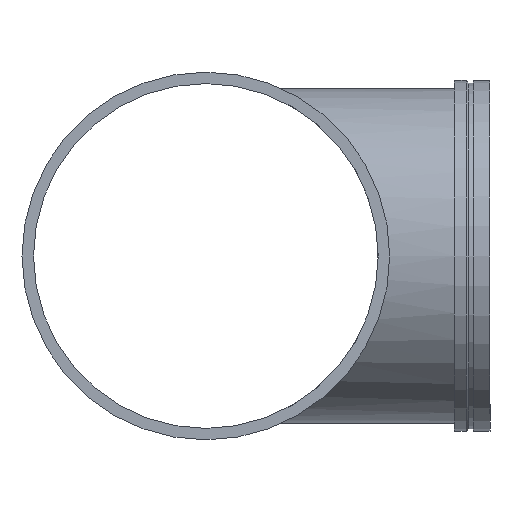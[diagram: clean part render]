
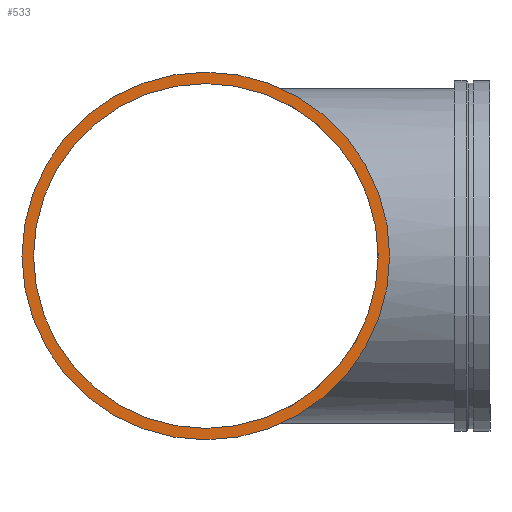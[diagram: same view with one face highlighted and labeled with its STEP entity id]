
A CAD part, left-side view. The second image highlights one B-rep face of the part: STEP entity #533.
In plain terms, the highlighted planar face has unit normal (-1, 0, 0).
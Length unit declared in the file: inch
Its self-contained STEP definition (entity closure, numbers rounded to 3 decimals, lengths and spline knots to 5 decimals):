
#58=FACE_BOUND('',#128,.T.);
#67=PLANE('',#626);
#92=FACE_OUTER_BOUND('',#127,.T.);
#127=EDGE_LOOP('',(#465,#466));
#128=EDGE_LOOP('',(#467,#468));
#151=CIRCLE('',#587,22.);
#152=CIRCLE('',#588,22.);
#175=CIRCLE('',#624,20.625);
#176=CIRCLE('',#625,20.625);
#239=VERTEX_POINT('',#1209);
#240=VERTEX_POINT('',#1211);
#263=VERTEX_POINT('',#1278);
#264=VERTEX_POINT('',#1280);
#299=EDGE_CURVE('',#239,#240,#151,.T.);
#300=EDGE_CURVE('',#240,#239,#152,.T.);
#331=EDGE_CURVE('',#264,#263,#175,.T.);
#332=EDGE_CURVE('',#263,#264,#176,.T.);
#465=ORIENTED_EDGE('',*,*,#300,.F.);
#466=ORIENTED_EDGE('',*,*,#299,.F.);
#467=ORIENTED_EDGE('',*,*,#331,.T.);
#468=ORIENTED_EDGE('',*,*,#332,.T.);
#533=ADVANCED_FACE('',(#92,#58),#67,.T.);
#587=AXIS2_PLACEMENT_3D('',#1212,#716,#717);
#588=AXIS2_PLACEMENT_3D('',#1213,#718,#719);
#624=AXIS2_PLACEMENT_3D('',#1281,#798,#799);
#625=AXIS2_PLACEMENT_3D('',#1282,#800,#801);
#626=AXIS2_PLACEMENT_3D('',#1283,#802,#803);
#716=DIRECTION('center_axis',(1.,0.,0.));
#717=DIRECTION('ref_axis',(0.,0.,1.));
#718=DIRECTION('center_axis',(1.,0.,0.));
#719=DIRECTION('ref_axis',(0.,0.,1.));
#798=DIRECTION('center_axis',(1.,0.,0.));
#799=DIRECTION('ref_axis',(0.,0.,1.));
#800=DIRECTION('center_axis',(1.,0.,0.));
#801=DIRECTION('ref_axis',(0.,0.,1.));
#802=DIRECTION('center_axis',(-1.,0.,0.));
#803=DIRECTION('ref_axis',(0.,0.,-1.));
#1209=CARTESIAN_POINT('',(-36.,22.,0.));
#1211=CARTESIAN_POINT('',(-36.,-22.,0.));
#1212=CARTESIAN_POINT('Origin',(-36.,0.,0.));
#1213=CARTESIAN_POINT('Origin',(-36.,0.,0.));
#1278=CARTESIAN_POINT('',(-36.,20.625,0.));
#1280=CARTESIAN_POINT('',(-36.,-20.625,0.));
#1281=CARTESIAN_POINT('Origin',(-36.,0.,0.));
#1282=CARTESIAN_POINT('Origin',(-36.,0.,0.));
#1283=CARTESIAN_POINT('Origin',(-36.,-22.,0.));
